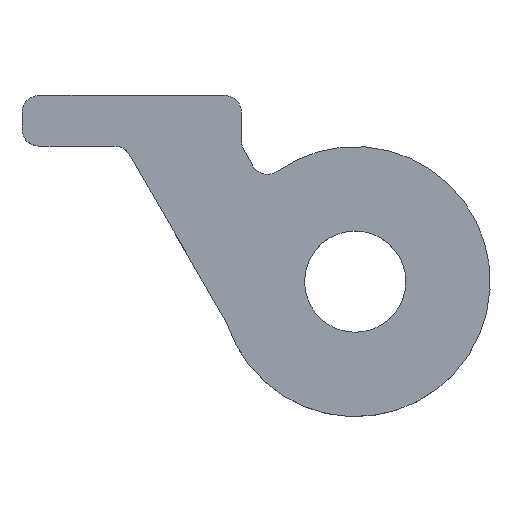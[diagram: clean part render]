
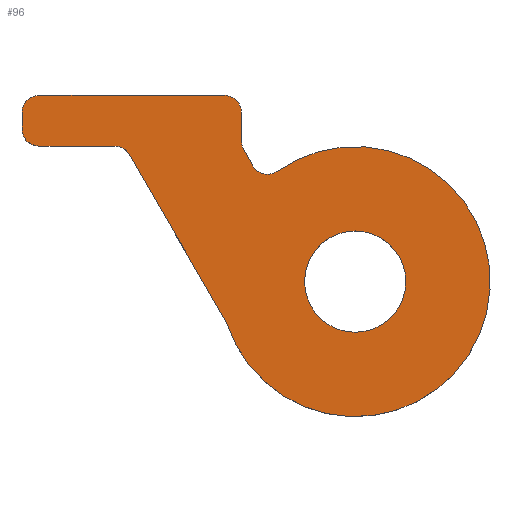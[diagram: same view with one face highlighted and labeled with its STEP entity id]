
A CAD part, top view. The second image highlights one B-rep face of the part: STEP entity #96.
In plain terms, the highlighted planar face has unit normal (0, 0, 1).
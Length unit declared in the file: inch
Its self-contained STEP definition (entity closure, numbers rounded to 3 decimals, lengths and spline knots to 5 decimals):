
#5 = VECTOR ( 'NONE', #325, 39.37008 ) ;
#6 = AXIS2_PLACEMENT_3D ( 'NONE', #164, #500, #659 ) ;
#11 = DIRECTION ( 'NONE',  ( 1., 0., 0. ) ) ;
#21 = AXIS2_PLACEMENT_3D ( 'NONE', #875, #786, #11 ) ;
#25 = ORIENTED_EDGE ( 'NONE', *, *, #278, .F. ) ;
#34 = EDGE_LOOP ( 'NONE', ( #376, #1025, #820, #849, #831, #826, #205, #45, #818, #50, #890, #95, #25, #958 ) ) ;
#40 = AXIS2_PLACEMENT_3D ( 'NONE', #899, #1001, #400 ) ;
#41 = VECTOR ( 'NONE', #148, 39.37008 ) ;
#42 = DIRECTION ( 'NONE',  ( 1., 0., 0. ) ) ;
#45 = ORIENTED_EDGE ( 'NONE', *, *, #1056, .T. ) ;
#47 = DIRECTION ( 'NONE',  ( 0., 0., -1. ) ) ;
#50 = ORIENTED_EDGE ( 'NONE', *, *, #915, .T. ) ;
#68 = DIRECTION ( 'NONE',  ( 1., 0., 0. ) ) ;
#70 = CARTESIAN_POINT ( 'NONE',  ( 0., 0., 0.875 ) ) ;
#71 = DIRECTION ( 'NONE',  ( 1., 0., 0. ) ) ;
#76 = CARTESIAN_POINT ( 'NONE',  ( 0., 0., 0.875 ) ) ;
#80 = VECTOR ( 'NONE', #190, 39.37008 ) ;
#95 = ORIENTED_EDGE ( 'NONE', *, *, #377, .T. ) ;
#96 = ADVANCED_FACE ( 'NONE', ( #222, #401 ), #565, .T. ) ;
#100 = VECTOR ( 'NONE', #1110, 39.37008 ) ;
#104 = ORIENTED_EDGE ( 'NONE', *, *, #326, .F. ) ;
#134 = CARTESIAN_POINT ( 'NONE',  ( -1.65124, 1.95022, 0.875 ) ) ;
#142 = EDGE_CURVE ( 'NONE', #921, #723, #293, .T. ) ;
#148 = DIRECTION ( 'NONE',  ( -0.5, 0.866, 0. ) ) ;
#149 = AXIS2_PLACEMENT_3D ( 'NONE', #924, #758, #68 ) ;
#160 = VERTEX_POINT ( 'NONE', #605 ) ;
#162 = CARTESIAN_POINT ( 'NONE',  ( -4.68474, 2.75824, 0.875 ) ) ;
#164 = CARTESIAN_POINT ( 'NONE',  ( -1.29778, 1.83801, 0.875 ) ) ;
#165 = CARTESIAN_POINT ( 'NONE',  ( -1.9171, -0.58931, 0.875 ) ) ;
#168 = DIRECTION ( 'NONE',  ( 1., 0., 0. ) ) ;
#170 = DIRECTION ( 'NONE',  ( 0., 0., -1. ) ) ;
#173 = VERTEX_POINT ( 'NONE', #165 ) ;
#190 = DIRECTION ( 'NONE',  ( 0., -1., 0. ) ) ;
#205 = ORIENTED_EDGE ( 'NONE', *, *, #566, .T. ) ;
#206 = EDGE_CURVE ( 'NONE', #411, #160, #255, .T. ) ;
#218 = CIRCLE ( 'NONE', #859, 0.25 ) ;
#221 = CARTESIAN_POINT ( 'NONE',  ( 0.75, 0., 0.875 ) ) ;
#222 = FACE_OUTER_BOUND ( 'NONE', #34, .T. ) ;
#243 = CARTESIAN_POINT ( 'NONE',  ( -4.68474, 2.00824, 0.875 ) ) ;
#248 = CARTESIAN_POINT ( 'NONE',  ( -3.41679, 2.00824, 0.875 ) ) ;
#255 = LINE ( 'NONE', #841, #5 ) ;
#278 = EDGE_CURVE ( 'NONE', #921, #682, #442, .T. ) ;
#286 = CARTESIAN_POINT ( 'NONE',  ( -0.75, 0., 0.875 ) ) ;
#293 = CIRCLE ( 'NONE', #413, 0.25 ) ;
#325 = DIRECTION ( 'NONE',  ( 0., -1., 0. ) ) ;
#326 = EDGE_CURVE ( 'NONE', #1066, #1027, #1050, .T. ) ;
#331 = CARTESIAN_POINT ( 'NONE',  ( -4.68474, 2.50824, 0.875 ) ) ;
#333 = DIRECTION ( 'NONE',  ( 1., 0., 0. ) ) ;
#339 = DIRECTION ( 'NONE',  ( 0., 0., 1. ) ) ;
#354 = AXIS2_PLACEMENT_3D ( 'NONE', #76, #339, #941 ) ;
#357 = CARTESIAN_POINT ( 'NONE',  ( -1.68474, 2.07522, 0.875 ) ) ;
#361 = VERTEX_POINT ( 'NONE', #134 ) ;
#376 = ORIENTED_EDGE ( 'NONE', *, *, #907, .F. ) ;
#377 = EDGE_CURVE ( 'NONE', #361, #682, #891, .T. ) ;
#382 = VERTEX_POINT ( 'NONE', #1075 ) ;
#390 = CARTESIAN_POINT ( 'NONE',  ( -3.34462, 1.88324, 0.875 ) ) ;
#393 = VERTEX_POINT ( 'NONE', #457 ) ;
#400 = DIRECTION ( 'NONE',  ( 1., 0., 0. ) ) ;
#401 = FACE_BOUND ( 'NONE', #763, .T. ) ;
#411 = VERTEX_POINT ( 'NONE', #472 ) ;
#413 = AXIS2_PLACEMENT_3D ( 'NONE', #420, #950, #939 ) ;
#419 = CARTESIAN_POINT ( 'NONE',  ( -1.68474, 2.75824, 0.875 ) ) ;
#420 = CARTESIAN_POINT ( 'NONE',  ( -1.93474, 2.50824, 0.875 ) ) ;
#425 = CARTESIAN_POINT ( 'NONE',  ( -1.68474, 2.50824, 0.875 ) ) ;
#429 = CARTESIAN_POINT ( 'NONE',  ( -1.89654, -0.63494, 0.875 ) ) ;
#442 = LINE ( 'NONE', #965, #80 ) ;
#448 = CIRCLE ( 'NONE', #6, 0.25 ) ;
#457 = CARTESIAN_POINT ( 'NONE',  ( -1.15358, 1.63378, 0.875 ) ) ;
#472 = CARTESIAN_POINT ( 'NONE',  ( -4.93474, 2.50824, 0.875 ) ) ;
#500 = DIRECTION ( 'NONE',  ( 0., 0., -1. ) ) ;
#523 = VERTEX_POINT ( 'NONE', #429 ) ;
#538 = CARTESIAN_POINT ( 'NONE',  ( -1.93474, 2.75824, 0.875 ) ) ;
#549 = VERTEX_POINT ( 'NONE', #162 ) ;
#550 = LINE ( 'NONE', #730, #755 ) ;
#565 = PLANE ( 'NONE',  #721 ) ;
#566 = EDGE_CURVE ( 'NONE', #1011, #173, #780, .T. ) ;
#580 = EDGE_CURVE ( 'NONE', #549, #411, #1018, .T. ) ;
#599 = CARTESIAN_POINT ( 'NONE',  ( 0., 0., 0.875 ) ) ;
#605 = CARTESIAN_POINT ( 'NONE',  ( -4.93474, 2.25824, 0.875 ) ) ;
#611 = CIRCLE ( 'NONE', #1098, 0.25 ) ;
#623 = CARTESIAN_POINT ( 'NONE',  ( -1.51429, 1.71301, 0.875 ) ) ;
#624 = EDGE_CURVE ( 'NONE', #681, #361, #669, .T. ) ;
#625 = DIRECTION ( 'NONE',  ( 1., 0., 0. ) ) ;
#637 = EDGE_CURVE ( 'NONE', #160, #967, #893, .T. ) ;
#650 = EDGE_CURVE ( 'NONE', #523, #393, #784, .T. ) ;
#659 = DIRECTION ( 'NONE',  ( 1., 0., 0. ) ) ;
#669 = LINE ( 'NONE', #1006, #41 ) ;
#681 = VERTEX_POINT ( 'NONE', #623 ) ;
#682 = VERTEX_POINT ( 'NONE', #357 ) ;
#715 = CARTESIAN_POINT ( 'NONE',  ( -2.1336, -0.71431, 0.875 ) ) ;
#721 = AXIS2_PLACEMENT_3D ( 'NONE', #70, #759, #333 ) ;
#723 = VERTEX_POINT ( 'NONE', #538 ) ;
#730 = CARTESIAN_POINT ( 'NONE',  ( -1.68474, 2.00824, 0.875 ) ) ;
#740 = AXIS2_PLACEMENT_3D ( 'NONE', #599, #769, #1112 ) ;
#755 = VECTOR ( 'NONE', #625, 39.37008 ) ;
#758 = DIRECTION ( 'NONE',  ( 0., 0., 1. ) ) ;
#759 = DIRECTION ( 'NONE',  ( 0., 0., 1. ) ) ;
#763 = EDGE_LOOP ( 'NONE', ( #104, #807 ) ) ;
#769 = DIRECTION ( 'NONE',  ( 0., 0., 1. ) ) ;
#780 = LINE ( 'NONE', #248, #100 ) ;
#784 = CIRCLE ( 'NONE', #354, 2. ) ;
#786 = DIRECTION ( 'NONE',  ( 0., 0., 1. ) ) ;
#807 = ORIENTED_EDGE ( 'NONE', *, *, #951, .F. ) ;
#818 = ORIENTED_EDGE ( 'NONE', *, *, #650, .T. ) ;
#820 = ORIENTED_EDGE ( 'NONE', *, *, #206, .T. ) ;
#826 = ORIENTED_EDGE ( 'NONE', *, *, #837, .T. ) ;
#831 = ORIENTED_EDGE ( 'NONE', *, *, #1072, .T. ) ;
#837 = EDGE_CURVE ( 'NONE', #382, #1011, #218, .T. ) ;
#840 = CARTESIAN_POINT ( 'NONE',  ( -3.56113, 1.75824, 0.875 ) ) ;
#841 = CARTESIAN_POINT ( 'NONE',  ( -4.93474, 2.75824, 0.875 ) ) ;
#849 = ORIENTED_EDGE ( 'NONE', *, *, #637, .T. ) ;
#859 = AXIS2_PLACEMENT_3D ( 'NONE', #840, #170, #71 ) ;
#875 = CARTESIAN_POINT ( 'NONE',  ( 0., 0., 0.875 ) ) ;
#890 = ORIENTED_EDGE ( 'NONE', *, *, #624, .T. ) ;
#891 = CIRCLE ( 'NONE', #40, 0.25 ) ;
#893 = CIRCLE ( 'NONE', #149, 0.25 ) ;
#899 = CARTESIAN_POINT ( 'NONE',  ( -1.43474, 2.07522, 0.875 ) ) ;
#907 = EDGE_CURVE ( 'NONE', #549, #723, #938, .T. ) ;
#915 = EDGE_CURVE ( 'NONE', #393, #681, #448, .T. ) ;
#921 = VERTEX_POINT ( 'NONE', #425 ) ;
#924 = CARTESIAN_POINT ( 'NONE',  ( -4.68474, 2.25824, 0.875 ) ) ;
#938 = LINE ( 'NONE', #419, #945 ) ;
#939 = DIRECTION ( 'NONE',  ( 1., 0., 0. ) ) ;
#941 = DIRECTION ( 'NONE',  ( 1., 0., 0. ) ) ;
#945 = VECTOR ( 'NONE', #1118, 39.37008 ) ;
#950 = DIRECTION ( 'NONE',  ( 0., 0., 1. ) ) ;
#951 = EDGE_CURVE ( 'NONE', #1027, #1066, #1039, .T. ) ;
#958 = ORIENTED_EDGE ( 'NONE', *, *, #142, .T. ) ;
#963 = AXIS2_PLACEMENT_3D ( 'NONE', #331, #1117, #168 ) ;
#965 = CARTESIAN_POINT ( 'NONE',  ( -1.68474, 2.75824, 0.875 ) ) ;
#967 = VERTEX_POINT ( 'NONE', #243 ) ;
#1001 = DIRECTION ( 'NONE',  ( 0., 0., -1. ) ) ;
#1006 = CARTESIAN_POINT ( 'NONE',  ( -1.36775, 1.4592, 0.875 ) ) ;
#1011 = VERTEX_POINT ( 'NONE', #390 ) ;
#1018 = CIRCLE ( 'NONE', #963, 0.25 ) ;
#1025 = ORIENTED_EDGE ( 'NONE', *, *, #580, .T. ) ;
#1027 = VERTEX_POINT ( 'NONE', #286 ) ;
#1039 = CIRCLE ( 'NONE', #740, 0.75 ) ;
#1050 = CIRCLE ( 'NONE', #21, 0.75 ) ;
#1056 = EDGE_CURVE ( 'NONE', #173, #523, #611, .T. ) ;
#1066 = VERTEX_POINT ( 'NONE', #221 ) ;
#1072 = EDGE_CURVE ( 'NONE', #967, #382, #550, .T. ) ;
#1075 = CARTESIAN_POINT ( 'NONE',  ( -3.56113, 2.00824, 0.875 ) ) ;
#1098 = AXIS2_PLACEMENT_3D ( 'NONE', #715, #47, #42 ) ;
#1110 = DIRECTION ( 'NONE',  ( 0.5, -0.866, 0. ) ) ;
#1112 = DIRECTION ( 'NONE',  ( 1., 0., 0. ) ) ;
#1117 = DIRECTION ( 'NONE',  ( 0., 0., 1. ) ) ;
#1118 = DIRECTION ( 'NONE',  ( 1., 0., 0. ) ) ;
